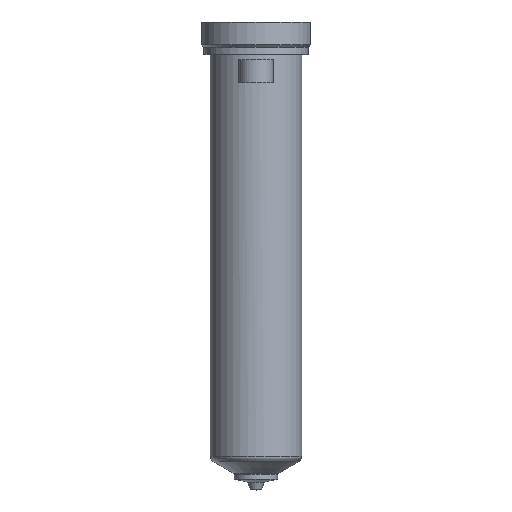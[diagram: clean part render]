
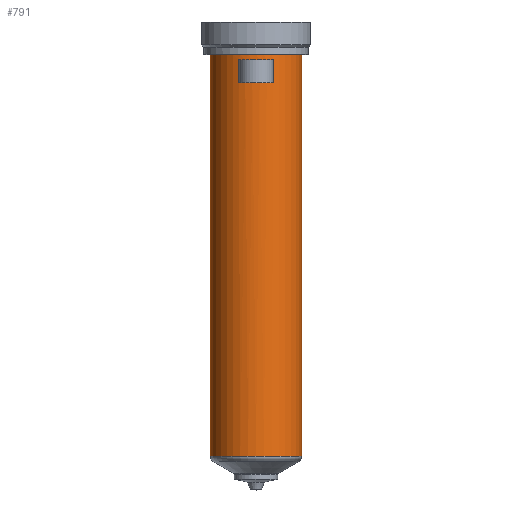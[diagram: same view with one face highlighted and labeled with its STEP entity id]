
A CAD part, top view. The second image highlights one B-rep face of the part: STEP entity #791.
In plain terms, the highlighted cylindrical face has radius 21 mm (diameter 42 mm), a partial arc.
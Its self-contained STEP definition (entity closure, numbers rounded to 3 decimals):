
#199=DIRECTION('',(0.,-1.,0.));
#200=VECTOR('',#199,184.428);
#201=CARTESIAN_POINT('',(21.,0.,0.));
#202=LINE('',#201,#200);
#203=CARTESIAN_POINT('',(0.,-184.428,0.));
#204=DIRECTION('',(0.,1.,0.));
#205=DIRECTION('',(-1.,0.,0.));
#206=AXIS2_PLACEMENT_3D('',#203,#204,#205);
#208=DIRECTION('',(0.,1.,0.));
#209=VECTOR('',#208,184.428);
#210=CARTESIAN_POINT('',(-21.,-184.428,0.));
#211=LINE('',#210,#209);
#212=CARTESIAN_POINT('',(0.,0.,0.));
#213=DIRECTION('',(0.,1.,0.));
#214=DIRECTION('',(-1.,0.,0.));
#215=AXIS2_PLACEMENT_3D('',#212,#213,#214);
#361=DIRECTION('',(0.,-1.,0.));
#362=VECTOR('',#361,10.5);
#363=CARTESIAN_POINT('',(-8.,-2.5,19.416));
#364=LINE('',#363,#362);
#365=CARTESIAN_POINT('',(0.,-13.,0.));
#366=DIRECTION('',(0.,1.,0.));
#367=DIRECTION('',(-0.381,0.,0.925));
#368=AXIS2_PLACEMENT_3D('',#365,#366,#367);
#391=CARTESIAN_POINT('',(0.,-2.5,0.));
#392=DIRECTION('',(0.,-1.,0.));
#393=DIRECTION('',(0.381,0.,0.925));
#394=AXIS2_PLACEMENT_3D('',#391,#392,#393);
#409=DIRECTION('',(0.,-1.,0.));
#410=VECTOR('',#409,10.5);
#411=CARTESIAN_POINT('',(8.,-2.5,19.416));
#412=LINE('',#411,#410);
#470=CARTESIAN_POINT('',(-21.,0.,0.));
#471=CARTESIAN_POINT('',(21.,0.,0.));
#472=VERTEX_POINT('',#470);
#473=VERTEX_POINT('',#471);
#482=CARTESIAN_POINT('',(-8.,-2.5,19.416));
#483=VERTEX_POINT('',#482);
#484=CARTESIAN_POINT('',(8.,-2.5,19.416));
#485=VERTEX_POINT('',#484);
#522=CARTESIAN_POINT('',(21.,-184.428,0.));
#523=VERTEX_POINT('',#522);
#532=CARTESIAN_POINT('',(-21.,-184.428,0.));
#533=VERTEX_POINT('',#532);
#550=CARTESIAN_POINT('',(-8.,-13.,19.416));
#551=CARTESIAN_POINT('',(8.,-13.,19.416));
#552=VERTEX_POINT('',#550);
#553=VERTEX_POINT('',#551);
#769=CARTESIAN_POINT('',(0.,16.4,0.));
#770=DIRECTION('',(0.,-1.,0.));
#771=DIRECTION('',(-1.,0.,0.));
#772=AXIS2_PLACEMENT_3D('',#769,#770,#771);
#773=CYLINDRICAL_SURFACE('',#772,21.);
#774=ORIENTED_EDGE('',*,*,#763,.T.);
#776=ORIENTED_EDGE('',*,*,#775,.F.);
#777=ORIENTED_EDGE('',*,*,#759,.T.);
#778=ORIENTED_EDGE('',*,*,#749,.T.);
#779=EDGE_LOOP('',(#774,#776,#777,#778));
#780=FACE_OUTER_BOUND('',#779,.F.);
#782=ORIENTED_EDGE('',*,*,#781,.T.);
#784=ORIENTED_EDGE('',*,*,#783,.T.);
#786=ORIENTED_EDGE('',*,*,#785,.F.);
#788=ORIENTED_EDGE('',*,*,#787,.T.);
#789=EDGE_LOOP('',(#782,#784,#786,#788));
#790=FACE_BOUND('',#789,.F.);
#791=ADVANCED_FACE('',(#780,#790),#773,.T.);
#207=CIRCLE('',#206,21.);
#216=CIRCLE('',#215,21.);
#369=CIRCLE('',#368,21.);
#395=CIRCLE('',#394,21.);
#749=EDGE_CURVE('',#472,#473,#216,.T.);
#759=EDGE_CURVE('',#533,#472,#211,.T.);
#763=EDGE_CURVE('',#473,#523,#202,.T.);
#775=EDGE_CURVE('',#533,#523,#207,.T.);
#781=EDGE_CURVE('',#483,#552,#364,.T.);
#783=EDGE_CURVE('',#552,#553,#369,.T.);
#785=EDGE_CURVE('',#485,#553,#412,.T.);
#787=EDGE_CURVE('',#485,#483,#395,.T.);
